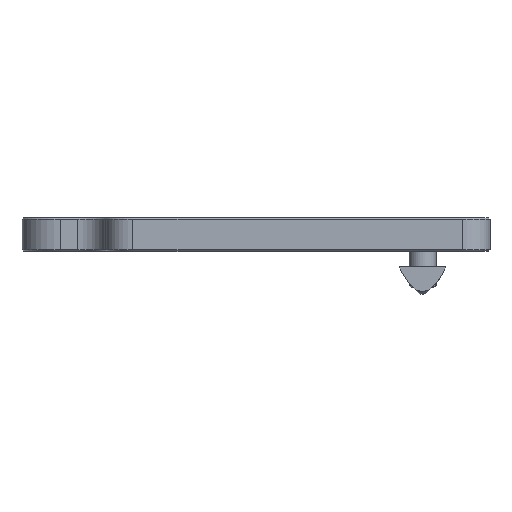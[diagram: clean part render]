
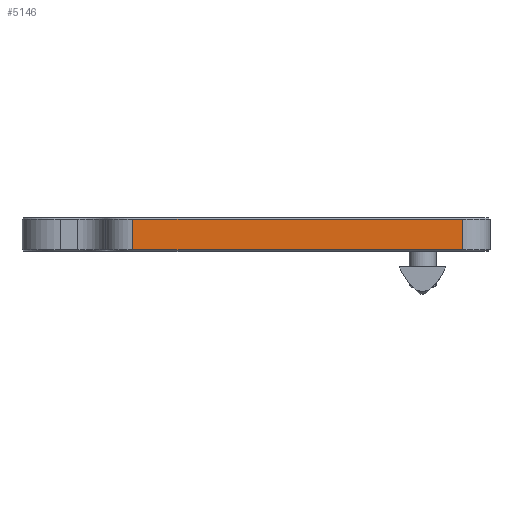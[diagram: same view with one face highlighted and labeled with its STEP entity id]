
A CAD part, left-side view. The second image highlights one B-rep face of the part: STEP entity #5146.
In plain terms, the highlighted planar face has unit normal (-1, 0, 0).
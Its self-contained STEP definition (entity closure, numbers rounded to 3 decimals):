
#2869=LINE('',#19565,#3588);
#2919=LINE('',#19739,#3638);
#2920=LINE('',#19743,#3639);
#2921=LINE('',#19745,#3640);
#3588=VECTOR('',#16125,1.);
#3638=VECTOR('',#16333,1.);
#3639=VECTOR('',#16338,1.);
#3640=VECTOR('',#16339,1.);
#5146=ADVANCED_FACE('',(#5898),#5483,.T.);
#5483=PLANE('',#13437);
#5898=FACE_OUTER_BOUND('',#6729,.T.);
#6729=EDGE_LOOP('',(#9158,#9159,#9160,#9161));
#9158=ORIENTED_EDGE('',*,*,#11641,.T.);
#9159=ORIENTED_EDGE('',*,*,#11558,.T.);
#9160=ORIENTED_EDGE('',*,*,#11643,.F.);
#9161=ORIENTED_EDGE('',*,*,#11644,.F.);
#10307=VERTEX_POINT('',#19560);
#10308=VERTEX_POINT('',#19564);
#10354=VERTEX_POINT('',#19740);
#10355=VERTEX_POINT('',#19744);
#11558=EDGE_CURVE('',#10307,#10308,#2869,.T.);
#11641=EDGE_CURVE('',#10354,#10307,#2919,.T.);
#11643=EDGE_CURVE('',#10355,#10308,#2920,.T.);
#11644=EDGE_CURVE('',#10354,#10355,#2921,.T.);
#13437=AXIS2_PLACEMENT_3D('',#19746,#16340,#16341);
#16125=DIRECTION('',(0.,-1.,0.));
#16333=DIRECTION('',(0.,0.,-1.));
#16338=DIRECTION('',(0.,0.,-1.));
#16339=DIRECTION('',(0.,-1.,0.));
#16340=DIRECTION('',(-1.,0.,0.));
#16341=DIRECTION('',(0.,0.,1.));
#19560=CARTESIAN_POINT('',(-22.,106.05,0.5));
#19564=CARTESIAN_POINT('',(-22.,8.2,0.5));
#19565=CARTESIAN_POINT('',(-22.,8.2,0.5));
#19739=CARTESIAN_POINT('',(-22.,106.05,0.));
#19740=CARTESIAN_POINT('',(-22.,106.05,9.5));
#19743=CARTESIAN_POINT('',(-22.,8.2,10.));
#19744=CARTESIAN_POINT('',(-22.,8.2,9.5));
#19745=CARTESIAN_POINT('',(-22.,114.25,9.5));
#19746=CARTESIAN_POINT('',(-22.,114.25,0.));
